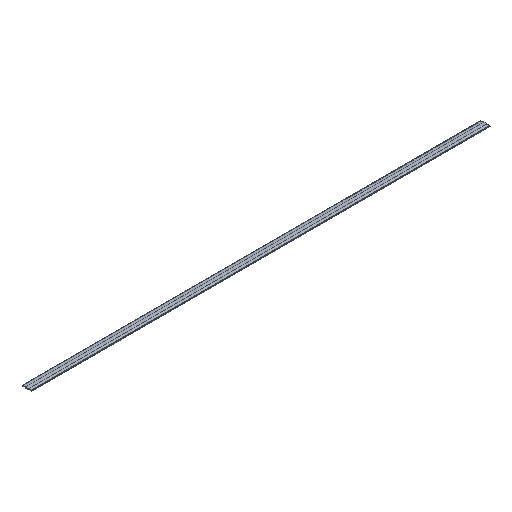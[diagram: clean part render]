
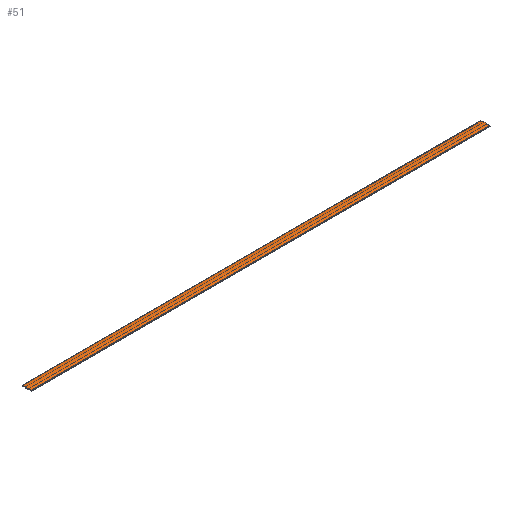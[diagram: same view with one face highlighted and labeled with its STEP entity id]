
A CAD part, isometric view. The second image highlights one B-rep face of the part: STEP entity #51.
In plain terms, the highlighted cylindrical face has radius 90 mm (diameter 180 mm), a partial arc.
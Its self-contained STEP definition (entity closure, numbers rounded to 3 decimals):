
#51 = ADVANCED_FACE( '', ( #85 ), #86, .T. );
#85 = FACE_OUTER_BOUND( '', #141, .T. );
#86 = CYLINDRICAL_SURFACE( '', #142, 90. );
#141 = EDGE_LOOP( '', ( #266, #267, #268, #269 ) );
#142 = AXIS2_PLACEMENT_3D( '', #270, #271, #272 );
#266 = ORIENTED_EDGE( '', *, *, #465, .F. );
#267 = ORIENTED_EDGE( '', *, *, #455, .F. );
#268 = ORIENTED_EDGE( '', *, *, #446, .T. );
#269 = ORIENTED_EDGE( '', *, *, #484, .T. );
#270 = CARTESIAN_POINT( '', ( 728.8, 0., -84.3 ) );
#271 = DIRECTION( '', ( 1., 0., 0. ) );
#272 = DIRECTION( '', ( 0., 0., 1. ) );
#446 = EDGE_CURVE( '', #544, #542, #545, .T. );
#455 = EDGE_CURVE( '', #544, #558, #561, .T. );
#465 = EDGE_CURVE( '', #558, #578, #579, .T. );
#484 = EDGE_CURVE( '', #542, #578, #614, .T. );
#542 = VERTEX_POINT( '', #686 );
#544 = VERTEX_POINT( '', #688 );
#545 = CIRCLE( '', #689, 90. );
#558 = VERTEX_POINT( '', #705 );
#561 = LINE( '', #709, #710 );
#578 = VERTEX_POINT( '', #734 );
#579 = CIRCLE( '', #735, 90. );
#614 = LINE( '', #783, #784 );
#686 = CARTESIAN_POINT( '', ( 728.8, 13.731, 4.646 ) );
#688 = CARTESIAN_POINT( '', ( 728.8, -13.731, 4.646 ) );
#689 = AXIS2_PLACEMENT_3D( '', #854, #855, #856 );
#705 = CARTESIAN_POINT( '', ( -728.8, -13.731, 4.646 ) );
#709 = CARTESIAN_POINT( '', ( 728.8, -13.731, 4.646 ) );
#710 = VECTOR( '', #873, 1000. );
#734 = CARTESIAN_POINT( '', ( -728.8, 13.731, 4.646 ) );
#735 = AXIS2_PLACEMENT_3D( '', #887, #888, #889 );
#783 = CARTESIAN_POINT( '', ( 728.8, 13.731, 4.646 ) );
#784 = VECTOR( '', #918, 1000. );
#854 = CARTESIAN_POINT( '', ( 728.8, 0., -84.3 ) );
#855 = DIRECTION( '', ( -1., 0., 0. ) );
#856 = DIRECTION( '', ( 0., 1., 0. ) );
#873 = DIRECTION( '', ( -1., 0., 0. ) );
#887 = CARTESIAN_POINT( '', ( -728.8, 0., -84.3 ) );
#888 = DIRECTION( '', ( -1., 0., 0. ) );
#889 = DIRECTION( '', ( 0., 1., 0. ) );
#918 = DIRECTION( '', ( -1., 0., 0. ) );
